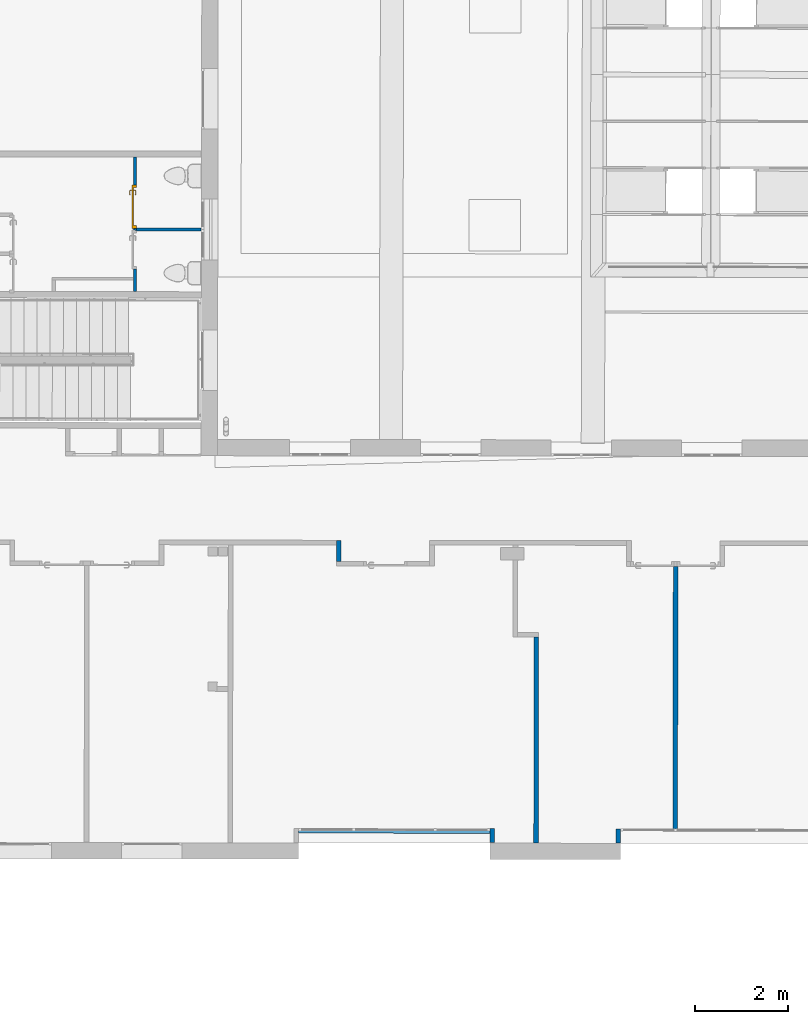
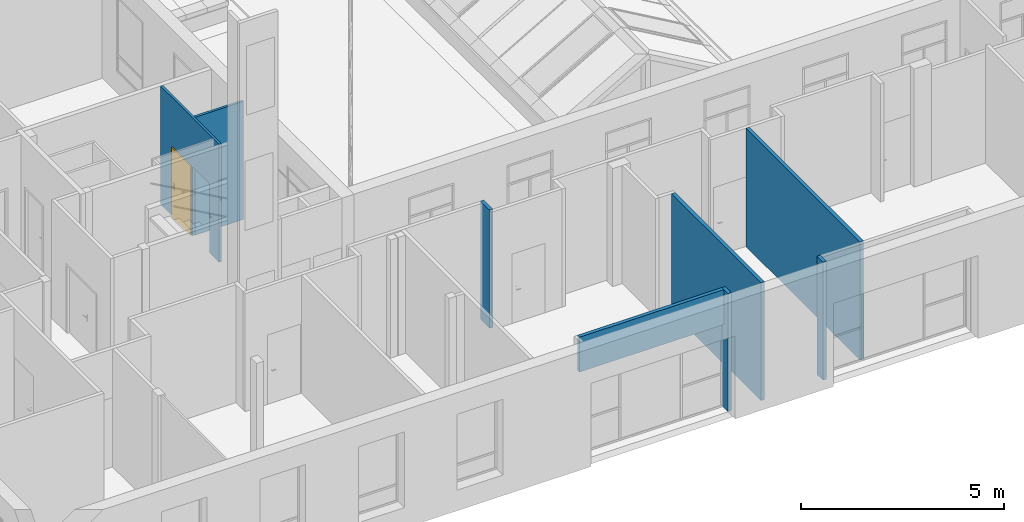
# One storey, part 54 of 101: 8 walls, 1 door, 3 openings.
"""IFC2X3 building model written with IfcOpenShell, lengths in metres."""

from ifc_helpers import new_model, entity, si_unit, converted_unit, derived_unit, direction, frame, frame_2d, origin, place, context, subcontext, project, spatial, rectangle, extrude, faceted_brep, source, transform, mapped, material, material_list, layer, layer_set, layer_usage, type_object, type_shapes, element, fill, save


model = new_model("IFC2X3")

# Units and contexts
model_context = context("Model", 3, precision=1e-05, world=origin(), true_north=direction((6.123233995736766e-17, 1.0)))
body_context = subcontext(model_context, "Body", "Model", "MODEL_VIEW")
ifc_project = project(units=[si_unit("LENGTHUNIT", "METRE"), si_unit("AREAUNIT", "SQUARE_METRE"), converted_unit("PLANEANGLEUNIT", "DEGREE", entity("IfcPlaneAngleMeasure", 0.017453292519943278), si_unit("PLANEANGLEUNIT", "RADIAN"), dimensions=[0, 0, 0, 0, 0, 0, 0]), derived_unit("THERMALTRANSMITTANCEUNIT", [(si_unit("MASSUNIT", "GRAM", prefix="KILO"), 1), (si_unit("THERMODYNAMICTEMPERATUREUNIT", "KELVIN"), -1), (si_unit("TIMEUNIT", "SECOND"), -3)])], contexts=[model_context])

# Site, building, storey
site_placement = place(None, frame((1253.6752467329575, 2072.143113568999, 91.49999999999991), z_axis=(0.0, 0.0, 1.0), x_axis=(0.7237211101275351, 0.6900925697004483, 0.0)))
site = spatial("IfcSite", under=ifc_project, at=site_placement, Name="Surface", CompositionType="ELEMENT")
building_placement = place(site_placement, origin())
building = spatial("IfcBuilding", under=site, at=building_placement, CompositionType="ELEMENT")
storey_placement = place(building_placement, origin())
storey = spatial("IfcBuildingStorey", under=building, at=storey_placement, Name="0- Rdc", CompositionType="ELEMENT", Elevation=-5.764692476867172e-13)

# Walls
ifc_material_1 = material(Name="OMD_Béton blanc")
ifc_layer_1 = layer(ifc_material_1, 0.1)
ifc_layer_set_1 = layer_set([ifc_layer_1], Name="Mur de base:MUR 10")
ifc_layer_usage_1 = layer_usage(ifc_layer_set_1, "AXIS2", "NEGATIVE", 0.05)
wall_type_1 = type_object("IfcWallType", Name="Mur de base:MUR 10", PredefinedType="STANDARD", material=ifc_layer_set_1)
wall_1_placement = place(storey_placement, frame((160.15248014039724, -2.584710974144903, 0.0), z_axis=(0.0, 0.0, 1.0), x_axis=(0.690983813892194, 0.7228702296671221, 0.0)))
element("IfcWallStandardCase", 1, at=wall_1_placement, inside=storey, type_object=wall_type_1, material=ifc_layer_usage_1, Name="Mur de base:MUR 10", ObjectType="Mur de base:MUR 10", context=body_context, shape_type="SweptSolid", body=[
    extrude(rectangle(XDim=0.44999999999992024, YDim=0.10000000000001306, at=frame_2d((0.22499999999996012, 1.9290125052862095e-15), x_axis=(-1.0, 0.0))), origin(), (0.0, 0.0, 1.0), 3.5499999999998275),
])
ifc_layer_usage_2 = layer_usage(ifc_layer_set_1, "AXIS2", "NEGATIVE", 0.05)
wall_2_placement = place(storey_placement, frame((165.3061191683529, -7.64935605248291, 0.0), z_axis=(0.0, 0.0, 1.0), x_axis=(-0.690983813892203, -0.7228702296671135, 0.0)))
element("IfcWallStandardCase", 2, at=wall_2_placement, inside=storey, type_object=wall_type_1, material=ifc_layer_usage_2, Name="Mur de base:MUR 10", ObjectType="Mur de base:MUR 10", context=body_context, shape_type="SweptSolid", body=[
    extrude(rectangle(XDim=5.630000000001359, YDim=0.10000000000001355, at=frame_2d((2.8150000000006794, 6.938893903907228e-17), x_axis=(-1.0, 0.0))), origin(), (0.0, 0.0, 1.0), 3.5499999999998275),
])
ifc_layer_usage_3 = layer_usage(ifc_layer_set_1, "AXIS2", "NEGATIVE", 0.05)
wall_3_placement = place(storey_placement, frame((162.09805613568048, -6.685532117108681, 0.0), z_axis=(0.0, 0.0, 1.0), x_axis=(-0.6909838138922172, -0.7228702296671, 0.0)))
element("IfcWallStandardCase", 3, at=wall_3_placement, inside=storey, type_object=wall_type_1, material=ifc_layer_usage_3, Name="Mur de base:MUR 10", ObjectType="Mur de base:MUR 10", context=body_context, shape_type="SweptSolid", body=[
    extrude(rectangle(XDim=4.410000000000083, YDim=0.10000000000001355, at=frame_2d((2.2050000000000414, -8.81239525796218e-16), x_axis=(-1.0, 0.0))), origin(), (0.0, 0.0, 1.0), 3.5499999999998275),
])
ifc_layer_usage_4 = layer_usage(ifc_layer_set_1, "AXIS2", "NEGATIVE", 0.05)
wall_4_placement = place(storey_placement, frame((158.57861464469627, -9.007003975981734, 0.0), z_axis=(0.0, 0.0, 1.0), x_axis=(-0.6909838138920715, -0.7228702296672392, 0.0)))
element("IfcWallStandardCase", 4, at=wall_4_placement, inside=storey, type_object=wall_type_1, material=ifc_layer_usage_4, Name="Mur de base:MUR 10", ObjectType="Mur de base:MUR 10", context=body_context, shape_type="SweptSolid", body=[
    extrude(rectangle(XDim=0.3000000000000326, YDim=0.10000000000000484, at=frame_2d((0.1500000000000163, 8.777700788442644e-16), x_axis=(-1.0, 0.0))), origin(), (0.0, 0.0, 1.0), 3.5499999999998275),
])

# Wall, opening
ifc_layer_usage_5 = layer_usage(ifc_layer_set_1, "AXIS2", "NEGATIVE", 0.05)
wall_5_placement = place(storey_placement, frame((155.5441540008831, -6.175564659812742, 2.4999999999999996), z_axis=(0.0, 0.0, 1.0), x_axis=(0.7228702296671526, -0.690983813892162, 0.0)))
wall_5 = element("IfcWallStandardCase", 5, at=wall_5_placement, inside=storey, type_object=wall_type_1, material=ifc_layer_usage_5, Name="Mur de base:MUR 10", ObjectType="Mur de base:MUR 10", context=body_context, shape_type="SweptSolid", body=[
    extrude(rectangle(XDim=4.0999999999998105, YDim=0.1000000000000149, at=frame_2d((2.0499999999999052, -5.599687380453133e-15), x_axis=(-1.0, 0.0))), origin(), (0.0, 0.0, 1.0), 1.0499999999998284),
])
opening_1_placement = place(wall_5_placement, frame((1.9575803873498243, -2.2503156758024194, -2.4999999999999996)))
element("IfcOpeningElement", 6, at=opening_1_placement, cuts=wall_5, Name="Mur de base:MUR 10", ObjectType="Opening", context=body_context, shape_type="SweptSolid", body=[
    extrude(rectangle(XDim=2.4999999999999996, YDim=4.099999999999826, at=frame_2d((0.0, 0.0), x_axis=(0.0, 1.0))), frame((0.09241961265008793, 2.047915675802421, 1.2499999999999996), z_axis=(0.0, 1.0, 0.0), x_axis=(-1.0, 0.0, 0.0)), (0.0, 0.0, 1.0), 0.40480000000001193),
])

# Wall
ifc_layer_usage_6 = layer_usage(ifc_layer_set_1, "AXIS2", "NEGATIVE", 0.05)
wall_6_placement = place(storey_placement, frame((160.32306912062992, -11.089521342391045, 0.0), z_axis=(0.0, 0.0, 1.0), x_axis=(0.6909838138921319, 0.7228702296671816, 0.0)))
element("IfcWallStandardCase", 7, at=wall_6_placement, inside=storey, type_object=wall_type_1, material=ifc_layer_usage_6, Name="Mur de base:MUR 10", ObjectType="Mur de base:MUR 10", context=body_context, shape_type="SweptSolid", body=[
    extrude(rectangle(XDim=0.2999999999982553, YDim=0.10000000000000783, at=frame_2d((0.14999999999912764, 2.8102520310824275e-15), x_axis=(-1.0, 0.0))), origin(), (0.0, 0.0, 1.0), 3.5499999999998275),
])

# Wall, openings, door
ifc_layer_2 = layer(ifc_material_1, 0.07)
ifc_layer_set_2 = layer_set([ifc_layer_2], Name="Mur de base:MUR 7")
ifc_layer_usage_7 = layer_usage(ifc_layer_set_2, "AXIS2", "NEGATIVE", 0.035)
wall_type_2 = type_object("IfcWallType", Name="Mur de base:MUR 7", PredefinedType="STANDARD", material=ifc_layer_set_2)
wall_7_placement = place(storey_placement, frame((162.9738427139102, 6.698399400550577, 0.0), z_axis=(0.0, 0.0, 1.0), x_axis=(-0.6909838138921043, -0.7228702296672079, 0.0)))
wall_7 = element("IfcWallStandardCase", 8, at=wall_7_placement, inside=storey, type_object=wall_type_2, material=ifc_layer_usage_7, Name="Mur de base:MUR 7", ObjectType="Mur de base:MUR 7", context=body_context, shape_type="SweptSolid", body=[
    extrude(rectangle(XDim=2.884999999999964, YDim=0.06999999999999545, at=frame_2d((1.442499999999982, 1.6202317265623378e-15), x_axis=(-1.0, 0.0))), origin(), (0.0, 0.0, 1.0), 3.5499999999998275),
])
opening_2_placement = place(wall_7_placement, frame((1.5275000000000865, 0.0349999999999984, 0.0)))
opening_2 = element("IfcOpeningElement", 9, at=opening_2_placement, cuts=wall_7, Name="OMD_Porte 1V tunnel:80x204:1", ObjectType="Opening", context=body_context, shape_type="SweptSolid", body=[
    extrude(rectangle(XDim=2.0850000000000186, YDim=0.9349999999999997, at=frame_2d((1.0425000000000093, 0.46749999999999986), x_axis=(1.0, 0.0))), frame((0.0, 0.0, 0.0), z_axis=(0.0, -1.0, 0.0), x_axis=(0.0, 0.0, 1.0)), (0.0, 0.0, 1.0), 0.06999999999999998),
])
opening_3_placement = place(wall_7_placement, frame((2.402500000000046, 0.03500000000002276, 0.0)))
element("IfcOpeningElement", 10, at=opening_3_placement, cuts=wall_7, Name="OMD_Porte 1V tunnel:70X204:1", ObjectType="Opening", context=body_context, shape_type="SweptSolid", body=[
    extrude(rectangle(XDim=2.0850000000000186, YDim=0.8349999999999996, at=frame_2d((1.0425000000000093, 0.4174999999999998), x_axis=(1.0, 0.0))), frame((0.0, 0.0, 0.0), z_axis=(0.0, -1.0, 0.0), x_axis=(0.0, 0.0, 1.0)), (0.0, 0.0, 1.0), 0.06999999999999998),
])
ifc_material_2 = material(Name="Porte - Poignée")
ifc_material_3 = material(Name="OMD_Peinture mur")
ifc_material_4 = material(Name="OMD_Bois")
ifc_material_list = material_list([ifc_material_2, ifc_material_3, ifc_material_4])
door_style = type_object("IfcDoorStyle", Name="OMD_Porte 1V tunnel:80x204", ConstructionType="NOTDEFINED", OperationType="NOTDEFINED", ParameterTakesPrecedence=False, Sizeable=False, material=ifc_material_list)
shared_shape = source(origin(), body_context, "Body", "Brep", [
    faceted_brep([(0.21297470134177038, 0.005000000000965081, 1.0077804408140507), (0.20900000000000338, 0.005000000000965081, 1.0069999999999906), (0.20899999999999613, 0.005000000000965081, 0.9929999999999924), (0.21297470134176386, 0.005000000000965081, 0.9922195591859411), (0.21702529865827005, 0.005000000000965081, 0.9922195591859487), (0.22100000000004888, 0.005000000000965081, 0.9930000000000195), (0.22100000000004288, 0.005000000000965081, 1.0069999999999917), (0.21702529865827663, 0.005000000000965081, 1.007780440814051), (0.22100000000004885, 0.027485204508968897, 0.9930000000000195), (0.2210000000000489, 0.027485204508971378, 1.0069999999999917), (0.21702529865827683, 0.0291315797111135, 1.007780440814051), (0.23083890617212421, 0.042945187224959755, 1.007780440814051), (0.22916109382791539, 0.046995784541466, 1.0077804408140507), (0.2129747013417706, 0.03080939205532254, 1.0077804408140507), (0.3206847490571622, 0.03646731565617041, 1.0077804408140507), (0.3235489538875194, 0.03933152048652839, 1.0077804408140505), (0.31588468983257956, 0.046995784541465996, 1.0077804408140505), (0.3142068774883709, 0.042945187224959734, 1.0077804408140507), (0.20900000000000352, 0.03245576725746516, 1.0069999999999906), (0.20900000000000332, 0.032455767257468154, 0.9929999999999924), (0.21297470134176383, 0.030809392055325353, 0.9922195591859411), (0.22916109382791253, 0.04699578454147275, 0.9922195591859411), (0.2308389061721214, 0.042945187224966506, 0.9922195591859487), (0.21702529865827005, 0.02913157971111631, 0.9922195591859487), (0.323548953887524, 0.03933152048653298, 0.9922195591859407), (0.32068474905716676, 0.03646731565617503, 0.9922195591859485), (0.31420687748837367, 0.04294518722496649, 0.9922195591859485), (0.3158846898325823, 0.046995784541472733, 0.9922195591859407), (0.2324852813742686, 0.03897048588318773, 0.9930000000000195), (0.2324852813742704, 0.038970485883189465, 1.0069999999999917), (0.22751471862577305, 0.05097048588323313, 1.0069999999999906), (0.227514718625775, 0.050970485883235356, 0.9929999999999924), (0.27252289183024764, 0.03897048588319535, 0.9930000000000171), (0.3125605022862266, 0.03897048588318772, 0.9930000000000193), (0.31256050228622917, 0.03897048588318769, 1.0069999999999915), (0.27252289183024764, 0.03897048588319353, 1.0069999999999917), (0.2725228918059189, 0.04512492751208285, 1.0078781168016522), (0.3175310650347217, 0.05097048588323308, 1.0069999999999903), (0.27760057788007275, 0.0509704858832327, 1.0069999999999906), (0.3175310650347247, 0.050970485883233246, 0.9929999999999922), (0.26744520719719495, 0.05097048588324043, 0.9929999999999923), (0.27252289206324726, 0.0451249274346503, 0.9921218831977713), (0.317874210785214, 0.03365677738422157, 0.9930000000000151), (0.32635949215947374, 0.04214205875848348, 0.99299999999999), (0.3263594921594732, 0.04214205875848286, 1.0069999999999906), (0.3178742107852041, 0.0336567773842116, 1.0069999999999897)], [[[0, 1, 2, 3, 4, 5, 6, 7]], [[6, 5, 8, 9]], [[9, 10, 7, 6]], [[10, 11, 12, 13, 0, 7]], [[14, 15, 16, 17]], [[13, 18, 1, 0]], [[2, 1, 18, 19]], [[19, 20, 3, 2]], [[20, 21, 22, 23, 4, 3]], [[24, 25, 26, 27]], [[23, 8, 5, 4]], [[9, 8, 28, 29]], [[29, 11, 10, 9]], [[12, 30, 18, 13]], [[19, 18, 30, 31]], [[31, 21, 20, 19]], [[22, 28, 8, 23]], [[29, 28, 32, 33, 34, 35]], [[11, 35, 36]], [[16, 37, 38]], [[30, 12, 38]], [[38, 12, 36]], [[36, 35, 17]], [[17, 16, 36]], [[35, 11, 29]], [[34, 17, 35]], [[11, 36, 12]], [[38, 36, 16]], [[31, 30, 38, 37, 39, 40]], [[40, 41, 21]], [[41, 40, 27]], [[21, 31, 40]], [[39, 27, 40]], [[41, 32, 22]], [[22, 21, 41]], [[26, 32, 41]], [[28, 22, 32]], [[32, 26, 33]], [[26, 41, 27]], [[42, 25, 24, 43, 44, 15, 14, 45]], [[34, 33, 42, 45]], [[45, 14, 17, 34]], [[15, 44, 37, 16]], [[39, 37, 44, 43]], [[43, 24, 27, 39]], [[25, 42, 33, 26]]]),
    faceted_brep([(0.2129747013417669, -0.0349999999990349, 1.0077804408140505), (0.21702529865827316, -0.0349999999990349, 1.007780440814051), (0.22100000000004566, -0.0349999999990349, 1.006999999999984), (0.22100000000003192, -0.0349999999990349, 0.9930000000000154), (0.21702529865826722, -0.0349999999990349, 0.9922195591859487), (0.21297470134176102, -0.0349999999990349, 0.992219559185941), (0.20900000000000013, -0.0349999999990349, 0.992999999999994), (0.20900000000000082, -0.0349999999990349, 1.0069999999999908), (0.20900000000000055, -0.0626509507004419, 1.0069999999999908), (0.21297470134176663, -0.06100457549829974, 1.0077804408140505), (0.2290235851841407, -0.07705345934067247, 1.0077804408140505), (0.2307013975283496, -0.07300286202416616, 1.007780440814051), (0.2170252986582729, -0.05932676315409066, 1.007780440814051), (0.323521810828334, -0.06938919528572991, 1.0077804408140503), (0.3206576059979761, -0.06652499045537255, 1.0077804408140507), (0.31417973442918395, -0.07300286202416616, 1.0077804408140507), (0.3158575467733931, -0.07705345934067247, 1.0077804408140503), (0.22100000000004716, -0.05768038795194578, 1.0069999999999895), (0.2210000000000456, -0.05768038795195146, 0.9930000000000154), (0.21702529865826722, -0.05932676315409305, 0.9922195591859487), (0.23070139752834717, -0.07300286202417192, 0.9922195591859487), (0.22902358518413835, -0.07705345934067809, 0.992219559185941), (0.21297470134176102, -0.06100457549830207, 0.992219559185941), (0.32065760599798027, -0.06652499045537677, 0.9922195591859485), (0.3235218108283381, -0.06938919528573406, 0.9922195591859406), (0.31585754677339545, -0.0770534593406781, 0.9922195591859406), (0.31417973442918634, -0.07300286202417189, 0.9922195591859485), (0.20899999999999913, -0.06265095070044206, 0.9929999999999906), (0.22737720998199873, -0.08102816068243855, 1.0069999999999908), (0.2323477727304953, -0.0690281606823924, 1.0069999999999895), (0.23234777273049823, -0.06902816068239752, 0.9930000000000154), (0.22737720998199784, -0.08102816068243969, 0.9929999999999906), (0.2673076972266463, -0.08102816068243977, 1.0069999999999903), (0.2724405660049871, -0.07518280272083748, 1.0078781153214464), (0.31750392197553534, -0.08102816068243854, 1.0069999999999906), (0.2724405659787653, -0.06902816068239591, 1.0069999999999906), (0.31253335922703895, -0.06902816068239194, 1.0069999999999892), (0.3125333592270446, -0.06902816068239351, 0.9930000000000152), (0.272440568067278, -0.0690281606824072, 0.9930000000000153), (0.2724405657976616, -0.07518280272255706, 0.9921218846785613), (0.3175039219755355, -0.08102816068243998, 0.9929999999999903), (0.2775734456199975, -0.08102816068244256, 0.9929999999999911), (0.31784706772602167, -0.06371445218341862, 1.0069999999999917), (0.3263323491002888, -0.0721997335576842, 1.0069999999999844), (0.32633234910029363, -0.07219973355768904, 0.9929999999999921), (0.3178470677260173, -0.06371445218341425, 0.9930000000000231)], [[[0, 1, 2, 3, 4, 5, 6, 7]], [[8, 9, 0, 7]], [[9, 10, 11, 12, 1, 0]], [[13, 14, 15, 16]], [[12, 17, 2, 1]], [[3, 2, 17, 18]], [[18, 19, 4, 3]], [[19, 20, 21, 22, 5, 4]], [[23, 24, 25, 26]], [[22, 27, 6, 5]], [[7, 6, 27, 8]], [[28, 10, 9, 8]], [[11, 29, 17, 12]], [[18, 17, 29, 30]], [[30, 20, 19, 18]], [[21, 31, 27, 22]], [[8, 27, 31, 28]], [[32, 33, 10]], [[33, 32, 16]], [[10, 28, 32]], [[34, 16, 32]], [[33, 35, 11]], [[11, 10, 33]], [[15, 35, 33]], [[29, 11, 35]], [[35, 15, 36]], [[15, 33, 16]], [[30, 29, 35, 36, 37, 38]], [[20, 38, 39]], [[25, 40, 41]], [[31, 21, 41]], [[41, 21, 39]], [[39, 38, 26]], [[26, 25, 39]], [[38, 20, 30]], [[37, 26, 38]], [[20, 39, 21]], [[41, 39, 25]], [[28, 31, 41, 40, 34, 32]], [[42, 14, 13, 43, 44, 24, 23, 45]], [[43, 13, 16, 34]], [[14, 42, 36, 15]], [[37, 36, 42, 45]], [[45, 23, 26, 37]], [[24, 44, 40, 25]], [[34, 40, 44, 43]]]),
    faceted_brep([(0.22535276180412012, 0.0, 0.8660039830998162), (0.23500000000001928, 0.0, 0.8700000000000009), (0.23500000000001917, 0.0, 1.0800000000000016), (0.22535276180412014, 0.0, 1.0839960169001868), (0.2150000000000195, 0.0, 1.0853589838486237), (0.2046472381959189, 0.0, 1.0839960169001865), (0.1950000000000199, 0.0, 1.0800000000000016), (0.19500000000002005, 0.0, 0.8700000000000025), (0.20464723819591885, 0.0, 0.866003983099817), (0.21500000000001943, 0.0, 0.8646410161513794), (0.2253527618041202, 0.00500000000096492, 1.0839960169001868), (0.23500000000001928, 0.005000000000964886, 1.0800000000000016), (0.2350000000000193, 0.005000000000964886, 0.8700000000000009), (0.22535276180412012, 0.00500000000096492, 0.8660039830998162), (0.21500000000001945, 0.005000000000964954, 0.8646410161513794), (0.2046472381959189, 0.005000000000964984, 0.866003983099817), (0.1950000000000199, 0.005000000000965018, 0.8700000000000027), (0.1950000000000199, 0.005000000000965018, 1.0800000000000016), (0.2046472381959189, 0.005000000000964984, 1.0839960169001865), (0.21500000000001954, 0.005000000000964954, 1.0853589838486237)], [[[0, 1, 2, 3, 4, 5, 6, 7, 8, 9]], [[10, 11, 12, 13, 14, 15, 16, 17, 18, 19]], [[11, 10, 3, 2]], [[3, 10, 19, 4]], [[19, 18, 5, 4]], [[18, 17, 6, 5]], [[7, 6, 17, 16]], [[16, 15, 8, 7]], [[8, 15, 14, 9]], [[14, 13, 0, 9]], [[13, 12, 1, 0]], [[2, 1, 12, 11]]]),
    faceted_brep([(0.22535276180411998, -0.03499999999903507, 0.8660039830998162), (0.23500000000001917, -0.03499999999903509, 0.8700000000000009), (0.23500000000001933, -0.03499999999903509, 1.0800000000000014), (0.22535276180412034, -0.03499999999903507, 1.0839960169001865), (0.21500000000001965, -0.03499999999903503, 1.0853589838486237), (0.20464723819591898, -0.034999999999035, 1.0839960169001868), (0.1950000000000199, -0.03499999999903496, 1.0800000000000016), (0.19500000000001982, -0.03499999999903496, 0.8700000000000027), (0.20464723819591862, -0.034999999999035, 0.8660039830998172), (0.21500000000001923, -0.03499999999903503, 0.8646410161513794), (0.22535276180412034, -0.029999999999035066, 1.0839960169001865), (0.23500000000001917, -0.029999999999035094, 1.0800000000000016), (0.23500000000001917, -0.029999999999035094, 0.8700000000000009), (0.22535276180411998, -0.029999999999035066, 0.8660039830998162), (0.21500000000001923, -0.029999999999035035, 0.8646410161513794), (0.20464723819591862, -0.029999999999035, 0.8660039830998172), (0.19500000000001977, -0.029999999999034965, 0.8700000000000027), (0.1950000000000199, -0.029999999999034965, 1.0800000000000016), (0.20464723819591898, -0.029999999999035, 1.0839960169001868), (0.21500000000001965, -0.029999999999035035, 1.0853589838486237)], [[[0, 1, 2, 3, 4, 5, 6, 7, 8, 9]], [[10, 11, 12, 13, 14, 15, 16, 17, 18, 19]], [[16, 15, 8, 7]], [[8, 15, 14, 9]], [[14, 13, 0, 9]], [[13, 12, 1, 0]], [[2, 1, 12, 11]], [[11, 10, 3, 2]], [[3, 10, 19, 4]], [[19, 18, 5, 4]], [[18, 17, 6, 5]], [[7, 6, 17, 16]]]),
    faceted_brep([(0.14500000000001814, 0.0, 0.0), (0.9900000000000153, 0.0, 0.0), (0.9900000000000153, -0.029999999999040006, 0.0), (0.14500000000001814, -0.029999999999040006, 0.0), (0.14500000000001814, 0.0, 2.04), (0.14500000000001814, -0.029999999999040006, 2.04), (0.9900000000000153, -0.029999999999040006, 2.04), (0.9900000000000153, 0.0, 2.04)], [[[0, 1, 2, 3]], [[4, 0, 3, 5]], [[5, 3, 2, 6]], [[6, 2, 1, 7]], [[7, 1, 0, 4]], [[4, 5, 6, 7]]]),
    faceted_brep([(0.10000000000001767, -0.029999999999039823, 0.0), (0.10000000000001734, 0.07000000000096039, 0.0), (0.16000000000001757, 0.07000000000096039, 0.0), (0.16000000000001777, 0.0, 0.0), (0.1450000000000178, 0.0, 0.0), (0.14500000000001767, -0.029999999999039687, 0.0), (0.145000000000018, -0.029999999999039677, 2.04), (0.9900000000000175, -0.029999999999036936, 2.04), (0.9900000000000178, -0.029999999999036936, 0.0), (1.035000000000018, -0.0299999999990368, 0.0), (1.035000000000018, -0.029999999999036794, 2.0850000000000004), (0.10000000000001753, -0.029999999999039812, 2.0850000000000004), (0.14500000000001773, 0.0, 2.04), (0.16000000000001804, 0.0, 2.025), (0.9750000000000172, 0.0, 2.0249999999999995), (0.975000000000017, 0.0, 0.0), (0.990000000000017, 0.0, 0.0), (0.9900000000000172, 0.0, 2.0399999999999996), (0.16000000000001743, 0.07000000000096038, 2.025), (0.10000000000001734, 0.07000000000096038, 2.0850000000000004), (1.0350000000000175, 0.0700000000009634, 2.0850000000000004), (1.0350000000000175, 0.07000000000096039, 0.0), (0.9750000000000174, 0.07000000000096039, 0.0), (0.9750000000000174, 0.07000000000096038, 2.0250000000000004)], [[[0, 1, 2, 3, 4, 5]], [[5, 6, 7, 8, 9, 10, 11, 0]], [[4, 12, 6, 5]], [[3, 13, 14, 15, 16, 17, 12, 4]], [[2, 18, 13, 3]], [[1, 19, 20, 21, 22, 23, 18, 2]], [[0, 11, 19, 1]], [[10, 9, 21, 20]], [[9, 8, 16, 15, 22, 21]], [[17, 16, 8, 7]], [[23, 22, 15, 14]], [[12, 17, 7, 6]], [[18, 23, 14, 13]], [[11, 10, 20, 19]]]),
])
type_shapes(door_style, [shared_shape])
door_placement = place(opening_2_placement, frame((-1.0350000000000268, -0.07000000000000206, 0.0)))
door = element("IfcDoor", 11, at=door_placement, inside=storey, type_object=door_style, material=ifc_material_list, Name="OMD_Porte 1V tunnel:80x204", ObjectType="OMD_Porte 1V tunnel:80x204", OverallHeight=2.0850000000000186, OverallWidth=0.9350000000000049, context=body_context, shape_type="MappedRepresentation", body=[
    mapped(shared_shape, transform((0.0, 0.0, 0.0), scale=1.0)),
])
fill(opening_2, door)

# Wall
ifc_layer_usage_8 = layer_usage(ifc_layer_set_2, "AXIS2", "NEGATIVE", 0.035)
wall_8_placement = place(storey_placement, frame((162.92567917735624, 4.600208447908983, 0.0), z_axis=(0.0, 0.0, 1.0), x_axis=(-0.722870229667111, 0.6909838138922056, 0.0)))
element("IfcWallStandardCase", 12, at=wall_8_placement, inside=storey, type_object=wall_type_2, material=ifc_layer_usage_8, Name="Mur de base:MUR 7", ObjectType="Mur de base:MUR 7", context=body_context, shape_type="SweptSolid", body=[
    extrude(rectangle(XDim=1.3799999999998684, YDim=0.06999999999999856, at=frame_2d((0.6899999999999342, -8.153200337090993e-16), x_axis=(-1.0, 0.0))), origin(), (0.0, 0.0, 1.0), 3.5499999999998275),
])

save(model, "model.ifc")
